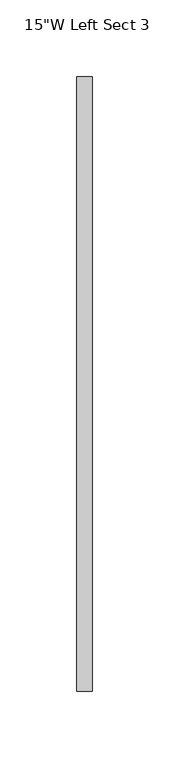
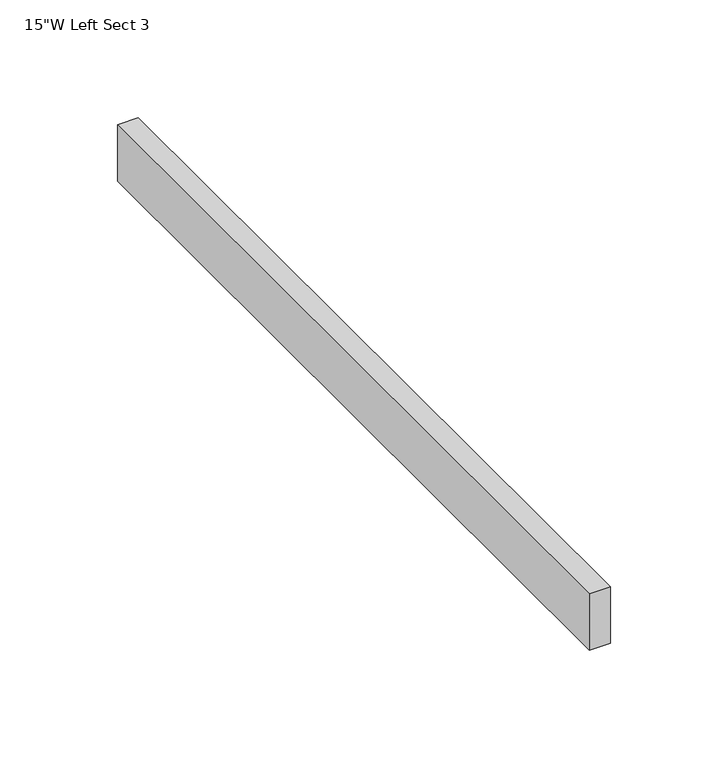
"""IFC4 building model written with IfcOpenShell, lengths in millimetres: furniture geometry."""

import ifcopenshell
import ifcopenshell.guid

model = None  # the IFC model being written
_history = None  # IfcOwnerHistory: only IFC2X3 demands one
_inside = {}  # id of a spatial element -> (the spatial element, [elements in it])
_under = {}  # id of a project, library or spatial element -> (it, [spatial elements below it])
_declared = {}  # id of a project -> (the project, [libraries it declares])
_typed = {}  # id of a type object -> (the type object, [elements of that type])
_made_of = {}  # id of a material, layer set ... -> (it, [elements and type objects made of it])


def new_model(schema):
    """Start an empty IFC model of exactly this schema.

    Asked for "IFC4X3", IfcOpenShell would pick the latest addendum, in which some entities
    have other attributes; the version numbers below select the first issue.
    IFC2X3 requires an IfcOwnerHistory on every rooted entity: one is made here for all.
    """
    global model, _history
    if schema == "IFC4X3":
        model = ifcopenshell.file(schema_version=(4, 3, 0, 0))
    else:
        model = ifcopenshell.file(schema=schema)
    _inside.clear()
    _under.clear()
    _declared.clear()
    _typed.clear()
    _made_of.clear()
    _history = None
    if model.schema == "IFC2X3":
        org = make("IfcOrganization", Name="unknown")
        user = make(
            "IfcPersonAndOrganization",
            ThePerson=make("IfcPerson", FamilyName="unknown"),
            TheOrganization=org,
        )
        app = make(
            "IfcApplication",
            ApplicationDeveloper=org,
            Version="unknown",
            ApplicationFullName="unknown",
            ApplicationIdentifier="unknown",
        )
        _history = make(
            "IfcOwnerHistory",
            OwningUser=user,
            OwningApplication=app,
            ChangeAction="ADDED",
            CreationDate=0,
        )
    return model


def make(cls, **values):
    """One entity of the class cls with the attributes given. An attribute that is None is left unset."""
    return model.create_entity(
        cls, **{name: value for name, value in values.items() if value is not None}
    )


def rooted(cls, **values):
    """An entity with a GlobalId (a new one), such as an element, a storey or a relation."""
    return make(cls, GlobalId=ifcopenshell.guid.new(), OwnerHistory=_history, **values)


def si_unit(unit_type, name, prefix=None):
    """IfcSIUnit, for example si_unit("LENGTHUNIT", "METRE", prefix="MILLI")."""
    return make("IfcSIUnit", UnitType=unit_type, Prefix=prefix, Name=name)


def assignment(units):
    """IfcUnitAssignment: the units of a project."""
    return None if units is None else make("IfcUnitAssignment", Units=units)


def point(xyz):
    """IfcCartesianPoint."""
    return None if xyz is None else make("IfcCartesianPoint", Coordinates=xyz)


def direction(xyz):
    """IfcDirection."""
    return None if xyz is None else make("IfcDirection", DirectionRatios=xyz)


def frame(location, z_axis=None, x_axis=None):
    """IfcAxis2Placement3D, a coordinate frame: its origin and axes. An axis left out is left unset."""
    return make(
        "IfcAxis2Placement3D",
        Location=point(location),
        Axis=direction(z_axis),
        RefDirection=direction(x_axis),
    )


def origin():
    """The frame at (0, 0, 0) with its axes left unset."""
    return frame((0.0, 0.0, 0.0))


def place(relative_to, where):
    """IfcLocalPlacement: puts the frame where relative to a parent placement (None: the world)."""
    return make(
        "IfcLocalPlacement", PlacementRelTo=relative_to, RelativePlacement=where
    )


def context(
    kind, dimensions, precision=None, world=None, true_north=None, identifier=None
):
    """IfcGeometricRepresentationContext, for example the 3D "Model" context."""
    return make(
        "IfcGeometricRepresentationContext",
        ContextIdentifier=identifier,
        ContextType=kind,
        CoordinateSpaceDimension=dimensions,
        Precision=precision,
        WorldCoordinateSystem=world,
        TrueNorth=true_north,
    )


def project(units=None, contexts=None):
    """IfcProject with its units and contexts."""
    return rooted(
        "IfcProject",
        Name="project",
        RepresentationContexts=contexts,
        UnitsInContext=assignment(units),
    )


def spatial(cls, under=None, at=None, **own):
    """A site, building, storey or space (cls), placed at a placement, below another one or the project."""
    s = rooted(cls, ObjectPlacement=at, **own)
    if under is not None:
        _under.setdefault(under.id(), (under, []))[1].append(s)
    return s


def polyline(points):
    """IfcPolyline through the points."""
    return make("IfcPolyline", Points=[point(p) for p in points])


def outline(outer, holes=None, kind="AREA"):
    """IfcArbitraryClosedProfileDef: a profile drawn as a closed curve; with holes, ...WithVoids."""
    if holes is None:
        return make("IfcArbitraryClosedProfileDef", ProfileType=kind, OuterCurve=outer)
    return make(
        "IfcArbitraryProfileDefWithVoids",
        ProfileType=kind,
        OuterCurve=outer,
        InnerCurves=holes,
    )


def extrude(swept, where, along, depth):
    """IfcExtrudedAreaSolid: the profile swept, set in the frame where, extruded along a direction by depth."""
    return make(
        "IfcExtrudedAreaSolid",
        SweptArea=swept,
        Position=where,
        ExtrudedDirection=direction(along),
        Depth=depth,
    )


def shape(context_of_items, identifier, shape_type, items):
    """IfcShapeRepresentation: the items that make up one representation, for example the "Body"."""
    return make(
        "IfcShapeRepresentation",
        ContextOfItems=context_of_items,
        RepresentationIdentifier=identifier,
        RepresentationType=shape_type,
        Items=items,
    )


def source(mapping_origin, context_of_items, identifier, shape_type, items):
    """IfcRepresentationMap: a shape defined once, which mapped items show again and again."""
    return make(
        "IfcRepresentationMap",
        MappingOrigin=mapping_origin,
        MappedRepresentation=shape(context_of_items, identifier, shape_type, items),
    )


def transform(
    local_origin,
    x_axis=None,
    y_axis=None,
    z_axis=None,
    scale=None,
    scale2=None,
    scale3=None,
    uniform=True,
):
    """IfcCartesianTransformationOperator3D, or its non-uniform kind. x_axis, y_axis, z_axis: its Axis1, 2, 3."""
    if uniform:
        return make(
            "IfcCartesianTransformationOperator3D",
            Axis1=direction(x_axis),
            Axis2=direction(y_axis),
            LocalOrigin=point(local_origin),
            Scale=scale,
            Axis3=direction(z_axis),
        )
    return make(
        "IfcCartesianTransformationOperator3DnonUniform",
        Axis1=direction(x_axis),
        Axis2=direction(y_axis),
        LocalOrigin=point(local_origin),
        Scale=scale,
        Axis3=direction(z_axis),
        Scale2=scale2,
        Scale3=scale3,
    )


def mapped(mapping_source, mapping_target):
    """IfcMappedItem: shows the shape of a source again, moved by a transform."""
    return make(
        "IfcMappedItem", MappingSource=mapping_source, MappingTarget=mapping_target
    )


def made_of(thing, what):
    """Note that an element or type object is made of a material, layer set ...; save() writes the relation."""
    if what is not None:
        _made_of.setdefault(what.id(), (what, []))[1].append(thing)
    return thing


def element(
    cls,
    number,
    at=None,
    inside=None,
    cuts=None,
    type_object=None,
    material=None,
    context=None,
    identifier="Body",
    shape_type=None,
    held_by="IfcProductDefinitionShape",
    body=None,
    shapes=None,
    **own,
):
    """One element of the class cls, such as IfcWall. Its Tag is "e" and its number.

    at: its placement. inside: the storey or other place that contains it. cuts: it is an
    opening in that element (IfcRelVoidsElement). A single representation is given by context,
    identifier, shape_type and body (its items); several are given by shapes. held_by: the class
    of the entity that holds the representations. save() writes the other relations.
    """
    e = rooted(cls, Tag="e%d" % number, ObjectPlacement=at, **own)
    if body is not None:
        shapes = [shape(context, identifier, shape_type, body)]
    if shapes is not None:
        e.Representation = make(held_by, Representations=shapes)
    if inside is not None:
        _inside.setdefault(inside.id(), (inside, []))[1].append(e)
    if cuts is not None:
        rooted(
            "IfcRelVoidsElement", RelatingBuildingElement=cuts, RelatedOpeningElement=e
        )
    if type_object is not None:
        _typed.setdefault(type_object.id(), (type_object, []))[1].append(e)
    return made_of(e, material)


def aggregate(whole, parts):
    """IfcRelAggregates: a whole, such as a stair, and the parts it consists of."""
    return rooted("IfcRelAggregates", RelatingObject=whole, RelatedObjects=parts)


def save(model, path):
    """Write the relations noted so far, then the file.

    IfcRelAggregates (storeys below a building ...), IfcRelContainedInSpatialStructure (elements
    in a storey), IfcRelDefinesByType, IfcRelAssociatesMaterial and IfcRelDeclares: one each for
    every whole, place, type object, material and project.
    """
    for whole, parts in _under.values():
        aggregate(whole, parts)
    for where, things in _inside.values():
        rooted(
            "IfcRelContainedInSpatialStructure",
            RelatedElements=things,
            RelatingStructure=where,
        )
    for kind, things in _typed.values():
        rooted("IfcRelDefinesByType", RelatedObjects=things, RelatingType=kind)
    for what, things in _made_of.values():
        rooted("IfcRelAssociatesMaterial", RelatedObjects=things, RelatingMaterial=what)
    for by, libraries in _declared.values():
        rooted("IfcRelDeclares", RelatingContext=by, RelatedDefinitions=libraries)
    model.write(path)


def furniture_755c3ff9(model_context):
    return source(origin(), model_context, "Body", "SweptSolid", [
        extrude(outline(polyline([(5.1854483, 200.787), (5.1854483, -200.787), (-5.0507517, -200.787), (-5.0507517, 200.787), (5.1854483, 200.787)])), frame((0.0, 0.0, 603.2563846), z_axis=(0.0, 0.0, 1.0), x_axis=(1.0, 0.0, 0.0)), (0.0, 0.0, 1.0), 29.4386),
    ])


if __name__ == "__main__":
    model = new_model("IFC4")
    model_context = context("Model", 3, world=origin())
    ifc_project = project(units=[si_unit("LENGTHUNIT", "METRE", prefix="MILLI")], contexts=[model_context])
    site = spatial("IfcSite", under=ifc_project)
    building = spatial("IfcBuilding", under=site)
    placement = place(None, origin())
    furniture_shape = furniture_755c3ff9(model_context)
    element("IfcFurniture", 1, ObjectType="HermanMiller_Carts_CT782_AccessoryRailSide : 15\"W Left Sect 3", at=placement, inside=building, context=model_context, shape_type="MappedRepresentation", body=[
        mapped(furniture_shape, transform((0.0, 0.0, 0.0), x_axis=(1.0, 0.0, 0.0), y_axis=(0.0, 1.0, 0.0), z_axis=(0.0, 0.0, 1.0))),
    ])
    save(model, "model.ifc")
